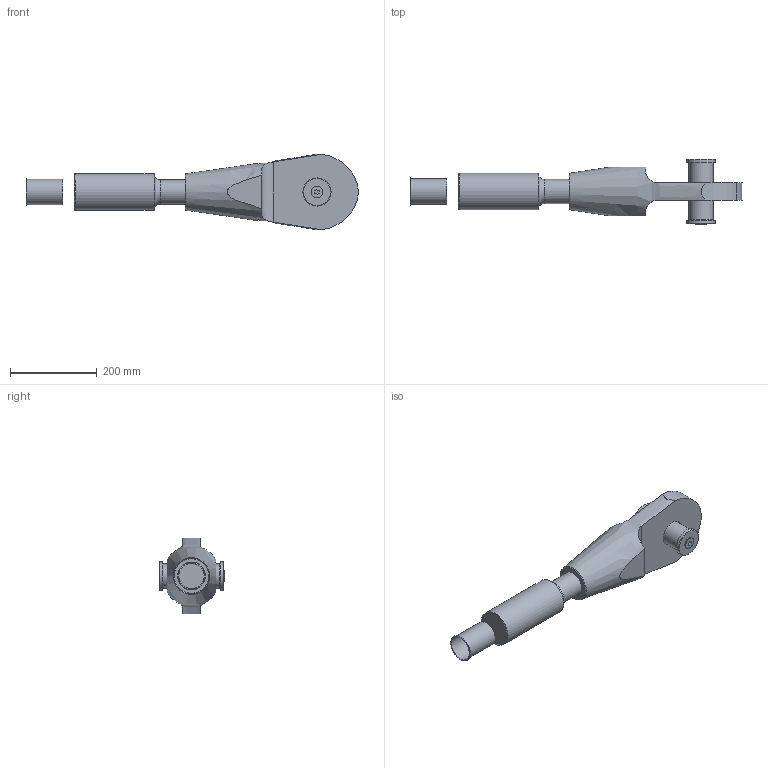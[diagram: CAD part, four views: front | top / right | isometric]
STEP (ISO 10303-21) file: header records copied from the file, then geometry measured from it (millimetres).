
FILE_DESCRIPTION(/* description */ (''),/* implementation_level */ '2;1');
FILE_NAME(/* name */ 'C:\Vault_WS\Designs\SB\01-PX\Verzinkt\ZSS\520 - Zusambau-OES-ADA\520-056-OES-ADA.stp',/* time_stamp */ '2020-10-07T15:40:17+02:00',/* author */ ('schwarz'),/* organization */ (''),/* preprocessor_version */ 'ST-DEVELOPER v18.1',/* originating_system */ 'Autodesk Inventor 2020',/* authorisation */ '');
FILE_SCHEMA (('AUTOMOTIVE_DESIGN { 1 0 10303 214 3 1 1 }'));
Length unit declared in the file: millimetre
Products named in the file (1): 520-056-OES-ADA-Kunde
Bounding box: 767.22 x 151.4 x 175.17 mm (x, y, z)
Volume: 5037827.2 mm3; surface area: 343696.2 mm2
Topology: 6 solids, 6 shells, 56 faces, 135 edges, 93 vertices
Faces by surface type: plane 25, cylinder 16, cone 13, torus 2
Full cylindrical faces by diameter (mm): 10.106 x1, 13.5 x1, 14 x1, 26.52 x1, 56 x2, 58.5 x1, 59 x1, 65 x2, 84 x1
Entity records: 1902 total; most frequent: CARTESIAN_POINT 439, DIRECTION 292, ORIENTED_EDGE 266, EDGE_CURVE 133, AXIS2_PLACEMENT_3D 124, VERTEX_POINT 93, CIRCLE 67, EDGE_LOOP 64
